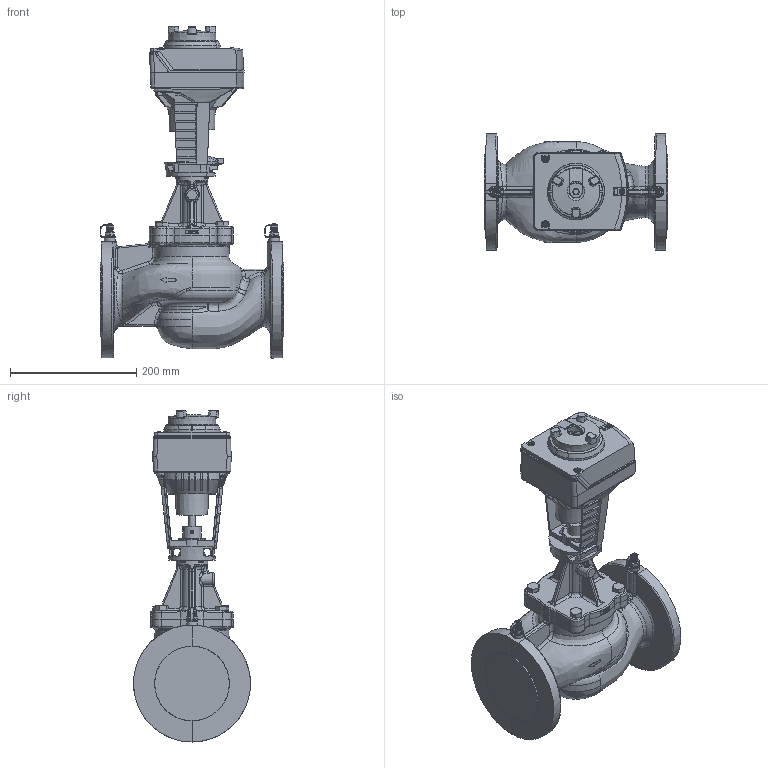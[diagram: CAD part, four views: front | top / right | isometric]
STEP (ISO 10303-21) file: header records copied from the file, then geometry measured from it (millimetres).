
FILE_DESCRIPTION((''),'2;1');
FILE_NAME('C:\Documents and Settings\jjo\Skrivebord\53-1201 incl actuator.stp','2012-12-06T11:06:26',('JJO'),(''),'Autodesk Inventor 2012','Autodesk Inventor 2012','');
FILE_SCHEMA(('AUTOMOTIVE_DESIGN { 1 0 10303 214 1 1 1 1 }'));
Length unit declared in the file: millimetre
Products named in the file (1): 53-1201 incl actuator_Shrinkwrap_1
Bounding box: 290 x 184.76 x 525.03 mm (x, y, z)
Surface area: 690114.5 mm2 (no closed solid volume)
Topology: 0 solids, 55 shells, 3272 faces, 8593 edges, 5445 vertices
Faces by surface type: plane 1441, cylinder 674, bspline 664, cone 254, torus 178, sphere 50, revolution 11
Full cylindrical faces by diameter (mm): 2.9 x2, 3.8 x1, 4 x3, 5 x3, 6 x1, 7 x1, 8 x2, 8.05 x1, 8.5 x2, 9 x3, 9.728 x2, 10 x4, 10.106 x4, 10.5 x1, 11 x2, 11.5 x2, 11.7 x2, 12 x5, 12.4 x1, 13.157 x2, 15 x1, 16.04 x2, 16.63 x4, 17 x4, 18 x2, 20 x1, 21.7 x1, 22 x1, 23.7 x1, 24.3 x1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
Entity records: 154086 total; most frequent: CARTESIAN_POINT 77193, ORIENTED_EDGE 16608, DIRECTION 13676, EDGE_CURVE 8304, VERTEX_POINT 5400, AXIS2_PLACEMENT_3D 5362, EDGE_LOOP 3576, FACE_OUTER_BOUND 3271
